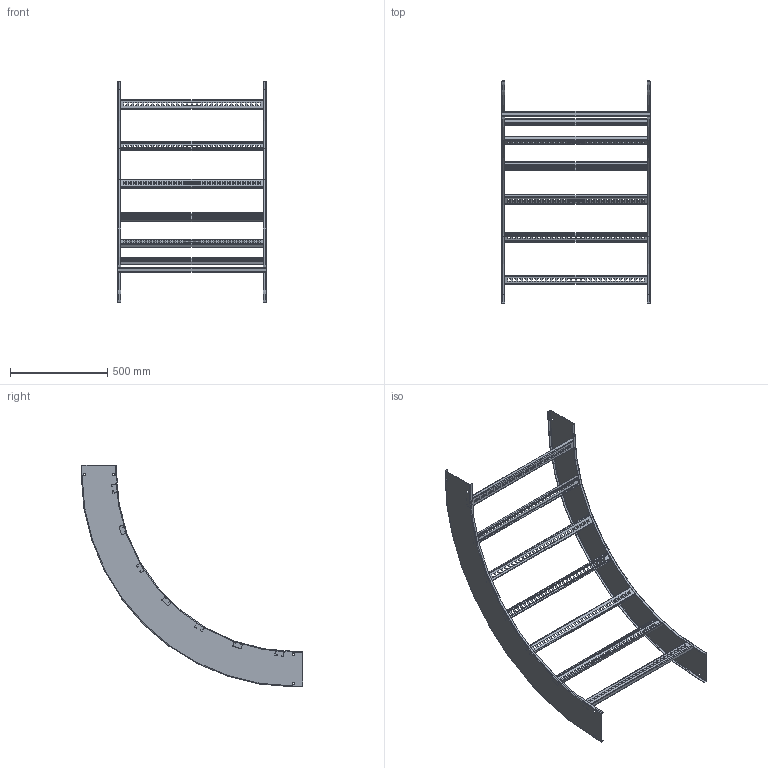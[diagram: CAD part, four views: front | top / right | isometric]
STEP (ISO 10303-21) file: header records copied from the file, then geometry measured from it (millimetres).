
FILE_DESCRIPTION((''),'2;1');
FILE_NAME('AUF730LVO9036_ASM','2010-02-01T',('erouzier'),(''),'PRO/ENGINEER BY PARAMETRIC TECHNOLOGY CORPORATION, 2008510','PRO/ENGINEER BY PARAMETRIC TECHNOLOGY CORPORATION, 2008510','');
FILE_SCHEMA(('CONFIG_CONTROL_DESIGN'));
Length unit declared in the file: inch
Products named in the file (3): CDS001419_7_90_36; CDS002159L30-P; AUF730LVO9036_ASM
Assembly tree (9 placements, depth 2):
  AUF730LVO9036_ASM
    CDS001419_7_90_36  x2
    CDS002159L30-P  x7
Bounding box: 766.11 x 1141.27 x 1141.27 mm (x, y, z)
Volume: 2107446.1 mm3; surface area: 2574915.2 mm2
Topology: 9 solids, 9 shells, 1894 faces, 5564 edges, 3688 vertices
Faces by surface type: plane 1001, cylinder 885, torus 8
Entity records: 10472 total; most frequent: DIRECTION 1814, CARTESIAN_POINT 1800, ORIENTED_EDGE 1784, EDGE_CURVE 892, VECTOR 618, LINE 618, AXIS2_PLACEMENT_3D 598, VERTEX_POINT 584
